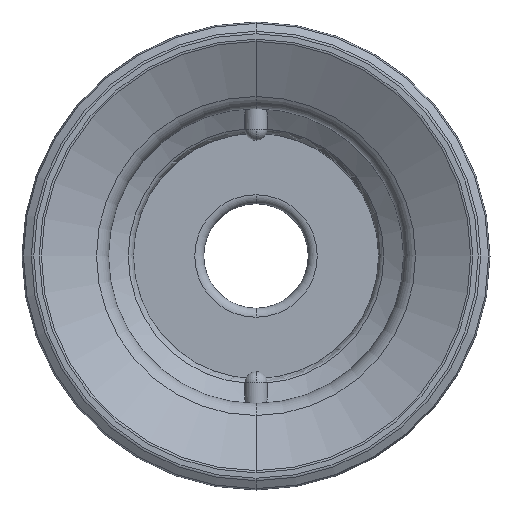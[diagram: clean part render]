
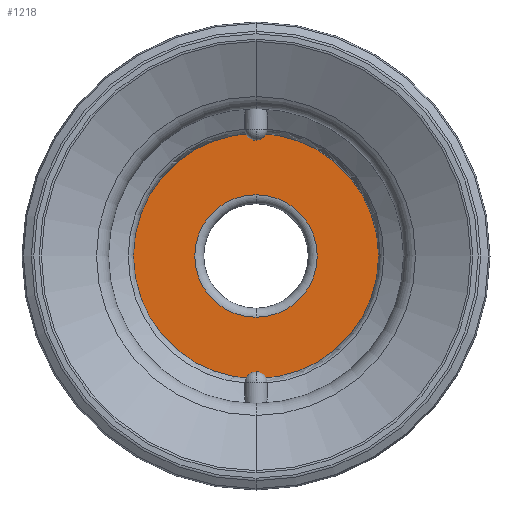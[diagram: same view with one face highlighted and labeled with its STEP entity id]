
A CAD part, front view. The second image highlights one B-rep face of the part: STEP entity #1218.
In plain terms, the highlighted planar face has unit normal (0, -1, 0).
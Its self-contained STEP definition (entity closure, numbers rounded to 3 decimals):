
#101 = AXIS2_PLACEMENT_3D ( 'NONE', #1031, #845, #213 ) ;
#213 = DIRECTION ( 'NONE',  ( 0., 0., -1. ) ) ;
#214 = ORIENTED_EDGE ( 'NONE', *, *, #789, .T. ) ;
#235 = EDGE_CURVE ( 'NONE', #1182, #1893, #1619, .T. ) ;
#270 = DIRECTION ( 'NONE',  ( 0., 1., 0. ) ) ;
#292 = AXIS2_PLACEMENT_3D ( 'NONE', #2030, #1044, #1220 ) ;
#300 = EDGE_CURVE ( 'NONE', #1122, #2166, #663, .T. ) ;
#378 = FACE_BOUND ( 'NONE', #1225, .T. ) ;
#663 = CIRCLE ( 'NONE', #1641, 5.4 ) ;
#789 = EDGE_CURVE ( 'NONE', #1893, #1182, #2099, .T. ) ;
#801 = CARTESIAN_POINT ( 'NONE',  ( 0., -4.6, 0. ) ) ;
#812 = CARTESIAN_POINT ( 'NONE',  ( 0., -4.6, 0. ) ) ;
#845 = DIRECTION ( 'NONE',  ( 0., -1., 0. ) ) ;
#954 = DIRECTION ( 'NONE',  ( 0., 0., 1. ) ) ;
#995 = AXIS2_PLACEMENT_3D ( 'NONE', #1938, #270, #1783 ) ;
#1031 = CARTESIAN_POINT ( 'NONE',  ( -2.7, -4.6, 0. ) ) ;
#1044 = DIRECTION ( 'NONE',  ( 0., 1., 0. ) ) ;
#1109 = FACE_OUTER_BOUND ( 'NONE', #1622, .T. ) ;
#1115 = ORIENTED_EDGE ( 'NONE', *, *, #235, .T. ) ;
#1122 = VERTEX_POINT ( 'NONE', #2084 ) ;
#1128 = AXIS2_PLACEMENT_3D ( 'NONE', #801, #1948, #954 ) ;
#1182 = VERTEX_POINT ( 'NONE', #1257 ) ;
#1206 = ORIENTED_EDGE ( 'NONE', *, *, #300, .F. ) ;
#1218 = ADVANCED_FACE ( 'NONE', ( #378, #1109 ), #1750, .T. ) ;
#1220 = DIRECTION ( 'NONE',  ( 0., 0., 1. ) ) ;
#1225 = EDGE_LOOP ( 'NONE', ( #214, #1115 ) ) ;
#1257 = CARTESIAN_POINT ( 'NONE',  ( 0., -4.6, -2.7 ) ) ;
#1469 = CARTESIAN_POINT ( 'NONE',  ( 0., -4.6, 2.7 ) ) ;
#1535 = CARTESIAN_POINT ( 'NONE',  ( 0., -4.6, 5.4 ) ) ;
#1619 = CIRCLE ( 'NONE', #995, 2.7 ) ;
#1622 = EDGE_LOOP ( 'NONE', ( #1755, #1206 ) ) ;
#1641 = AXIS2_PLACEMENT_3D ( 'NONE', #812, #1966, #2138 ) ;
#1750 = PLANE ( 'NONE',  #101 ) ;
#1755 = ORIENTED_EDGE ( 'NONE', *, *, #2128, .F. ) ;
#1783 = DIRECTION ( 'NONE',  ( 0., 0., 1. ) ) ;
#1893 = VERTEX_POINT ( 'NONE', #1469 ) ;
#1938 = CARTESIAN_POINT ( 'NONE',  ( 0., -4.6, 0. ) ) ;
#1948 = DIRECTION ( 'NONE',  ( 0., 1., 0. ) ) ;
#1957 = CIRCLE ( 'NONE', #292, 5.4 ) ;
#1966 = DIRECTION ( 'NONE',  ( 0., 1., 0. ) ) ;
#2030 = CARTESIAN_POINT ( 'NONE',  ( 0., -4.6, 0. ) ) ;
#2084 = CARTESIAN_POINT ( 'NONE',  ( 0., -4.6, -5.4 ) ) ;
#2099 = CIRCLE ( 'NONE', #1128, 2.7 ) ;
#2128 = EDGE_CURVE ( 'NONE', #2166, #1122, #1957, .T. ) ;
#2138 = DIRECTION ( 'NONE',  ( 0., 0., 1. ) ) ;
#2166 = VERTEX_POINT ( 'NONE', #1535 ) ;
